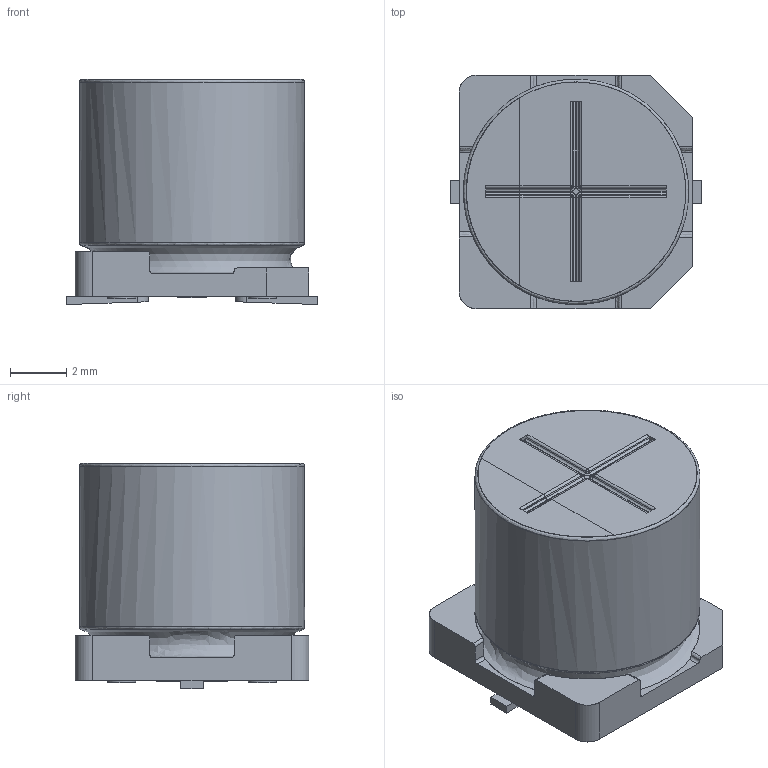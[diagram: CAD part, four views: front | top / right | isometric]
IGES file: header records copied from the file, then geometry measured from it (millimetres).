
Start section: JAMA-IS VERSION  1.0
Bounding box: 8.9 x 8.3 x 8 mm (x, y, z)
Surface area: 493.4 mm2 (no closed solid volume)
Topology: 0 solids, 0 shells, 132 faces, 1288 edges, 1270 vertices
Faces by surface type: bspline 132
